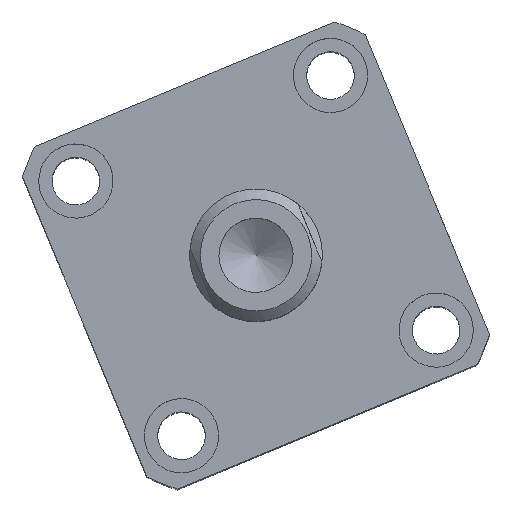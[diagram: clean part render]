
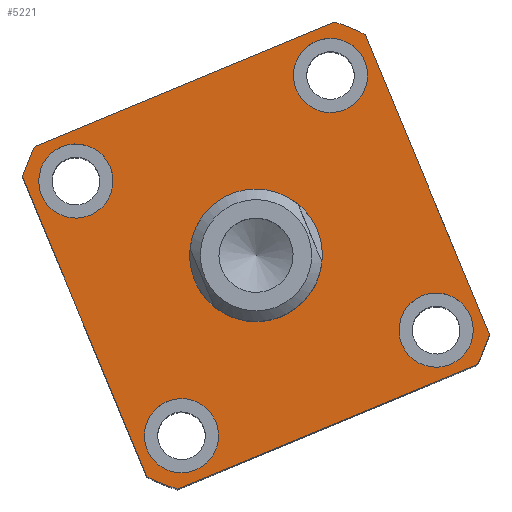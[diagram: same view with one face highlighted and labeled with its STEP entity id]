
A CAD part, top view. The second image highlights one B-rep face of the part: STEP entity #5221.
In plain terms, the highlighted planar face has unit normal (0, 0, 1).
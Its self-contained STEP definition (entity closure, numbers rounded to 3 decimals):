
#482=LINE('',#15687,#1320);
#488=LINE('',#15917,#1326);
#492=LINE('',#15926,#1330);
#496=LINE('',#15935,#1334);
#1320=VECTOR('',#11668,1.);
#1326=VECTOR('',#11800,1.);
#1330=VECTOR('',#11806,1.);
#1334=VECTOR('',#11812,1.);
#4444=PLANE('',#11247);
#5221=ADVANCED_FACE('',(#5822,#5823,#5824,#5825,#5826,#5827),#4444,.F.);
#5661=CIRCLE('',#11173,7.);
#5663=CIRCLE('',#11176,7.);
#5665=CIRCLE('',#11179,7.);
#5667=CIRCLE('',#11182,7.);
#5677=CIRCLE('',#11197,12.5);
#5706=CIRCLE('',#11243,46.5);
#5707=CIRCLE('',#11244,46.5);
#5708=CIRCLE('',#11245,46.5);
#5709=CIRCLE('',#11246,46.5);
#5822=FACE_BOUND('',#6032,.T.);
#5823=FACE_BOUND('',#6033,.T.);
#5824=FACE_BOUND('',#6034,.T.);
#5825=FACE_BOUND('',#6035,.T.);
#5826=FACE_BOUND('',#6036,.T.);
#5827=FACE_BOUND('',#6037,.T.);
#6032=EDGE_LOOP('',(#6691));
#6033=EDGE_LOOP('',(#6692));
#6034=EDGE_LOOP('',(#6693));
#6035=EDGE_LOOP('',(#6694));
#6036=EDGE_LOOP('',(#6695));
#6037=EDGE_LOOP('',(#6696,#6697,#6698,#6699,#6700,#6701,#6702,#6703));
#6691=ORIENTED_EDGE('',*,*,#9714,.F.);
#6692=ORIENTED_EDGE('',*,*,#9716,.F.);
#6693=ORIENTED_EDGE('',*,*,#9718,.F.);
#6694=ORIENTED_EDGE('',*,*,#9720,.F.);
#6695=ORIENTED_EDGE('',*,*,#9730,.F.);
#6696=ORIENTED_EDGE('',*,*,#9775,.F.);
#6697=ORIENTED_EDGE('',*,*,#9760,.F.);
#6698=ORIENTED_EDGE('',*,*,#9776,.F.);
#6699=ORIENTED_EDGE('',*,*,#9768,.F.);
#6700=ORIENTED_EDGE('',*,*,#9777,.F.);
#6701=ORIENTED_EDGE('',*,*,#9711,.F.);
#6702=ORIENTED_EDGE('',*,*,#9778,.F.);
#6703=ORIENTED_EDGE('',*,*,#9764,.F.);
#8893=VERTEX_POINT('',#15685);
#8895=VERTEX_POINT('',#15688);
#8897=VERTEX_POINT('',#15694);
#8899=VERTEX_POINT('',#15699);
#8901=VERTEX_POINT('',#15704);
#8903=VERTEX_POINT('',#15709);
#8913=VERTEX_POINT('',#15734);
#8941=VERTEX_POINT('',#15915);
#8943=VERTEX_POINT('',#15918);
#8945=VERTEX_POINT('',#15924);
#8947=VERTEX_POINT('',#15927);
#8949=VERTEX_POINT('',#15933);
#8951=VERTEX_POINT('',#15936);
#9711=EDGE_CURVE('',#8893,#8895,#482,.T.);
#9714=EDGE_CURVE('',#8897,#8897,#5661,.T.);
#9716=EDGE_CURVE('',#8899,#8899,#5663,.T.);
#9718=EDGE_CURVE('',#8901,#8901,#5665,.T.);
#9720=EDGE_CURVE('',#8903,#8903,#5667,.T.);
#9730=EDGE_CURVE('',#8913,#8913,#5677,.T.);
#9760=EDGE_CURVE('',#8941,#8943,#488,.T.);
#9764=EDGE_CURVE('',#8945,#8947,#492,.T.);
#9768=EDGE_CURVE('',#8949,#8951,#496,.T.);
#9775=EDGE_CURVE('',#8943,#8945,#5706,.T.);
#9776=EDGE_CURVE('',#8951,#8941,#5707,.T.);
#9777=EDGE_CURVE('',#8895,#8949,#5708,.T.);
#9778=EDGE_CURVE('',#8947,#8893,#5709,.T.);
#11173=AXIS2_PLACEMENT_3D('',#15693,#11673,#11674);
#11176=AXIS2_PLACEMENT_3D('',#15698,#11679,#11680);
#11179=AXIS2_PLACEMENT_3D('',#15703,#11685,#11686);
#11182=AXIS2_PLACEMENT_3D('',#15708,#11691,#11692);
#11197=AXIS2_PLACEMENT_3D('',#15733,#11721,#11722);
#11243=AXIS2_PLACEMENT_3D('',#15946,#11827,#11828);
#11244=AXIS2_PLACEMENT_3D('',#15947,#11829,#11830);
#11245=AXIS2_PLACEMENT_3D('',#15948,#11831,#11832);
#11246=AXIS2_PLACEMENT_3D('',#15949,#11833,#11834);
#11247=AXIS2_PLACEMENT_3D('',#15950,#11835,#11836);
#11668=DIRECTION('',(-0.924,-0.383,0.));
#11673=DIRECTION('',(0.,0.,1.));
#11674=DIRECTION('',(0.383,-0.924,0.));
#11679=DIRECTION('',(0.,0.,1.));
#11680=DIRECTION('',(0.383,-0.924,0.));
#11685=DIRECTION('',(0.,0.,1.));
#11686=DIRECTION('',(0.383,-0.924,0.));
#11691=DIRECTION('',(0.,0.,1.));
#11692=DIRECTION('',(0.383,-0.924,0.));
#11721=DIRECTION('',(0.,0.,1.));
#11722=DIRECTION('',(0.383,-0.924,0.));
#11800=DIRECTION('',(0.924,0.383,0.));
#11806=DIRECTION('',(0.383,-0.924,0.));
#11812=DIRECTION('',(-0.383,0.924,0.));
#11827=DIRECTION('',(0.,0.,-1.));
#11828=DIRECTION('',(-0.383,0.924,0.));
#11829=DIRECTION('',(0.,0.,-1.));
#11830=DIRECTION('',(-0.383,0.924,0.));
#11831=DIRECTION('',(0.,0.,-1.));
#11832=DIRECTION('',(-0.383,0.924,0.));
#11833=DIRECTION('',(0.,0.,-1.));
#11834=DIRECTION('',(-0.383,0.924,0.));
#11835=DIRECTION('',(0.,0.,-1.));
#11836=DIRECTION('',(0.383,-0.924,0.));
#15685=CARTESIAN_POINT('',(-48.072,14.81,105.538));
#15687=CARTESIAN_POINT('',(-44.021,16.49,105.538));
#15688=CARTESIAN_POINT('',(-104.631,-8.644,105.538));
#15693=CARTESIAN_POINT('',(-75.7,69.39,105.538));
#15694=CARTESIAN_POINT('',(-73.019,62.923,105.538));
#15698=CARTESIAN_POINT('',(-123.734,49.471,105.538));
#15699=CARTESIAN_POINT('',(-121.053,43.005,105.538));
#15703=CARTESIAN_POINT('',(-103.816,1.437,105.538));
#15704=CARTESIAN_POINT('',(-101.134,-5.029,105.538));
#15708=CARTESIAN_POINT('',(-55.782,21.356,105.538));
#15709=CARTESIAN_POINT('',(-53.1,14.89,105.538));
#15733=CARTESIAN_POINT('',(-89.758,35.413,105.538));
#15734=CARTESIAN_POINT('',(-84.97,23.867,105.538));
#15915=CARTESIAN_POINT('',(-131.444,56.017,105.538));
#15917=CARTESIAN_POINT('',(-70.834,81.151,105.538));
#15918=CARTESIAN_POINT('',(-74.885,79.471,105.538));
#15924=CARTESIAN_POINT('',(-69.154,77.1,105.538));
#15926=CARTESIAN_POINT('',(-44.021,16.49,105.538));
#15927=CARTESIAN_POINT('',(-45.701,20.541,105.538));
#15933=CARTESIAN_POINT('',(-110.362,-6.273,105.538));
#15935=CARTESIAN_POINT('',(-108.682,-10.324,105.538));
#15936=CARTESIAN_POINT('',(-133.815,50.286,105.538));
#15946=CARTESIAN_POINT('',(-89.758,35.413,105.538));
#15947=CARTESIAN_POINT('',(-89.758,35.413,105.538));
#15948=CARTESIAN_POINT('',(-89.758,35.413,105.538));
#15949=CARTESIAN_POINT('',(-89.758,35.413,105.538));
#15950=CARTESIAN_POINT('',(-89.758,35.413,105.538));
